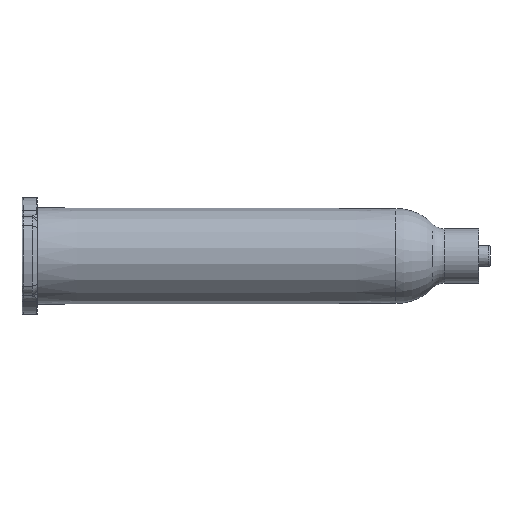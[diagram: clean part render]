
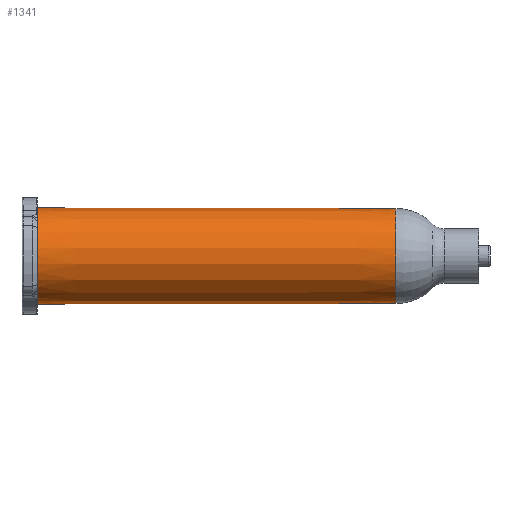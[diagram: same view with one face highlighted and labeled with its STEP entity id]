
A CAD part, front view. The second image highlights one B-rep face of the part: STEP entity #1341.
In plain terms, the highlighted conical face has half-angle 0.083 degrees and reference radius 9.2 mm.
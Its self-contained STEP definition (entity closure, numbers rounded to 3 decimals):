
#126 = CARTESIAN_POINT ( 'NONE',  ( 3., 0., -9.3 ) ) ;
#1209 = CIRCLE ( 'NONE', #6520, 9.3 ) ;
#1341 = ADVANCED_FACE ( 'NONE', ( #3994 ), #3031, .T. ) ;
#1533 = EDGE_CURVE ( 'NONE', #4318, #3521, #1209, .T. ) ;
#2248 = VECTOR ( 'NONE', #8587, 1000. ) ;
#2565 = DIRECTION ( 'NONE',  ( -1., 0., 0. ) ) ;
#3031 = CONICAL_SURFACE ( 'NONE', #5003, 9.2, 0.001 ) ;
#3039 = DIRECTION ( 'NONE',  ( 0., 0., 1. ) ) ;
#3100 = ORIENTED_EDGE ( 'NONE', *, *, #3409, .F. ) ;
#3409 = EDGE_CURVE ( 'NONE', #8079, #4318, #5072, .T. ) ;
#3521 = VERTEX_POINT ( 'NONE', #7258 ) ;
#3538 = ORIENTED_EDGE ( 'NONE', *, *, #4630, .T. ) ;
#3994 = FACE_OUTER_BOUND ( 'NONE', #8501, .T. ) ;
#4087 = CARTESIAN_POINT ( 'NONE',  ( 72.4, 0., 0. ) ) ;
#4318 = VERTEX_POINT ( 'NONE', #126 ) ;
#4366 = CARTESIAN_POINT ( 'NONE',  ( 72.4, 0., -9.2 ) ) ;
#4409 = VERTEX_POINT ( 'NONE', #6824 ) ;
#4560 = CARTESIAN_POINT ( 'NONE',  ( 72.4, 0., 0. ) ) ;
#4630 = EDGE_CURVE ( 'NONE', #8079, #4409, #8764, .T. ) ;
#4700 = ORIENTED_EDGE ( 'NONE', *, *, #8148, .T. ) ;
#5003 = AXIS2_PLACEMENT_3D ( 'NONE', #4087, #6340, #5540 ) ;
#5072 = LINE ( 'NONE', #8688, #8033 ) ;
#5119 = AXIS2_PLACEMENT_3D ( 'NONE', #4560, #7386, #3039 ) ;
#5281 = ORIENTED_EDGE ( 'NONE', *, *, #1533, .F. ) ;
#5459 = DIRECTION ( 'NONE',  ( 0., 0., 1. ) ) ;
#5540 = DIRECTION ( 'NONE',  ( 0., 0., 1. ) ) ;
#5688 = CARTESIAN_POINT ( 'NONE',  ( 72.4, 0., 9.2 ) ) ;
#5740 = LINE ( 'NONE', #5688, #2248 ) ;
#6340 = DIRECTION ( 'NONE',  ( -1., 0., 0. ) ) ;
#6520 = AXIS2_PLACEMENT_3D ( 'NONE', #8248, #2565, #5459 ) ;
#6824 = CARTESIAN_POINT ( 'NONE',  ( 72.4, 0., 9.2 ) ) ;
#7258 = CARTESIAN_POINT ( 'NONE',  ( 3., 0., 9.3 ) ) ;
#7386 = DIRECTION ( 'NONE',  ( -1., 0., 0. ) ) ;
#8010 = DIRECTION ( 'NONE',  ( -1., 0., -0.001 ) ) ;
#8033 = VECTOR ( 'NONE', #8010, 1000. ) ;
#8079 = VERTEX_POINT ( 'NONE', #4366 ) ;
#8148 = EDGE_CURVE ( 'NONE', #4409, #3521, #5740, .T. ) ;
#8248 = CARTESIAN_POINT ( 'NONE',  ( 3., 0., 0. ) ) ;
#8501 = EDGE_LOOP ( 'NONE', ( #3100, #3538, #4700, #5281 ) ) ;
#8587 = DIRECTION ( 'NONE',  ( -1., 0., 0.001 ) ) ;
#8688 = CARTESIAN_POINT ( 'NONE',  ( 72.4, 0., -9.2 ) ) ;
#8764 = CIRCLE ( 'NONE', #5119, 9.2 ) ;
